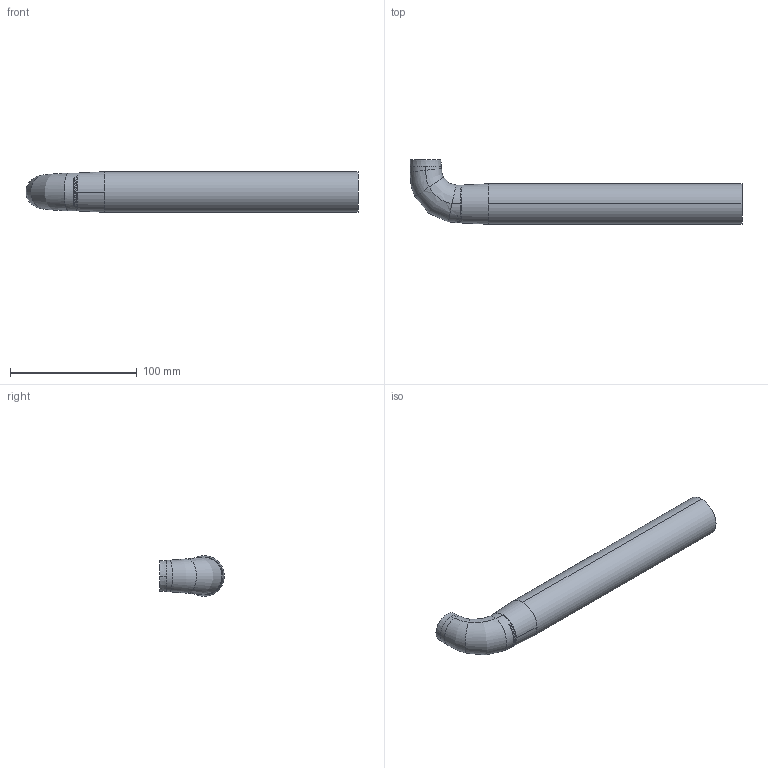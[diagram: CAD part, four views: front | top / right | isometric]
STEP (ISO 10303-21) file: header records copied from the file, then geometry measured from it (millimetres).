
FILE_DESCRIPTION( (''), '2;1');
FILE_NAME ('SY-2080-17_TB-32250-90-A.stp','2022-04-09T22:49:23',(''),(''),'spGate 18.9.3 (****-****-****-****)','','');
FILE_SCHEMA (('AUTOMOTIVE_DESIGN'));
Length unit declared in the file: millimetre
Products named in the file (21): Assembly; SY-2080-17_TB-32250-90-A-prt0; SY-2080-17_TB-32250-90-A-prt1; SY-2080-17_TB-32250-90-A-prt2; SY-2080-17_TB-32250-90-A-prt3; SY-2080-17_TB-32250-90-A-prt4; SY-2080-17_TB-32250-90-A-prt5; SY-2080-17_TB-32250-90-A-prt6; SY-2080-17_TB-32250-90-A-prt7; SY-2080-17_TB-32250-90-A-prt8; SY-2080-17_TB-32250-90-A-prt9; SY-2080-17_TB-32250-90-A-prt10; SY-2080-17_TB-32250-90-A-prt11; SY-2080-17_TB-32250-90-A-prt12; SY-2080-17_TB-32250-90-A-prt13; SY-2080-17_TB-32250-90-A-prt14; SY-2080-17_TB-32250-90-A-prt15; SY-2080-17_TB-32250-90-A-prt16; SY-2080-17_TB-32250-90-A-prt17; SY-2080-17_TB-32250-90-A-prt18; SY-2080-17_TB-32250-90-A-prt19
Assembly tree (20 placements, depth 2):
  Assembly
    SY-2080-17_TB-32250-90-A-prt0
    SY-2080-17_TB-32250-90-A-prt1
    SY-2080-17_TB-32250-90-A-prt2
    SY-2080-17_TB-32250-90-A-prt3
    SY-2080-17_TB-32250-90-A-prt4
    SY-2080-17_TB-32250-90-A-prt5
    SY-2080-17_TB-32250-90-A-prt6
    SY-2080-17_TB-32250-90-A-prt7
    SY-2080-17_TB-32250-90-A-prt8
    SY-2080-17_TB-32250-90-A-prt9
    SY-2080-17_TB-32250-90-A-prt10
    SY-2080-17_TB-32250-90-A-prt11
    SY-2080-17_TB-32250-90-A-prt12
    SY-2080-17_TB-32250-90-A-prt13
    SY-2080-17_TB-32250-90-A-prt14
    SY-2080-17_TB-32250-90-A-prt15
    SY-2080-17_TB-32250-90-A-prt16
    SY-2080-17_TB-32250-90-A-prt17
    SY-2080-17_TB-32250-90-A-prt18
    SY-2080-17_TB-32250-90-A-prt19
Bounding box: 262.41 x 51 x 32 mm (x, y, z)
Volume: 186525.9 mm3; surface area: 36251.3 mm2
Topology: 1 solids, 1 shells, 35 faces, 99 edges, 86 vertices
Faces by surface type: bspline 24, cylinder 6, plane 5
Entity records: 5041 total; most frequent: CARTESIAN_POINT 3123, DIRECTION 196, ORIENTED_EDGE 158, COLOUR_RGB 134, PRESENTATION_STYLE_ASSIGNMENT 134, STYLED_ITEM 134, DRAUGHTING_PRE_DEFINED_CURVE_FONT 98, CURVE_STYLE 98
